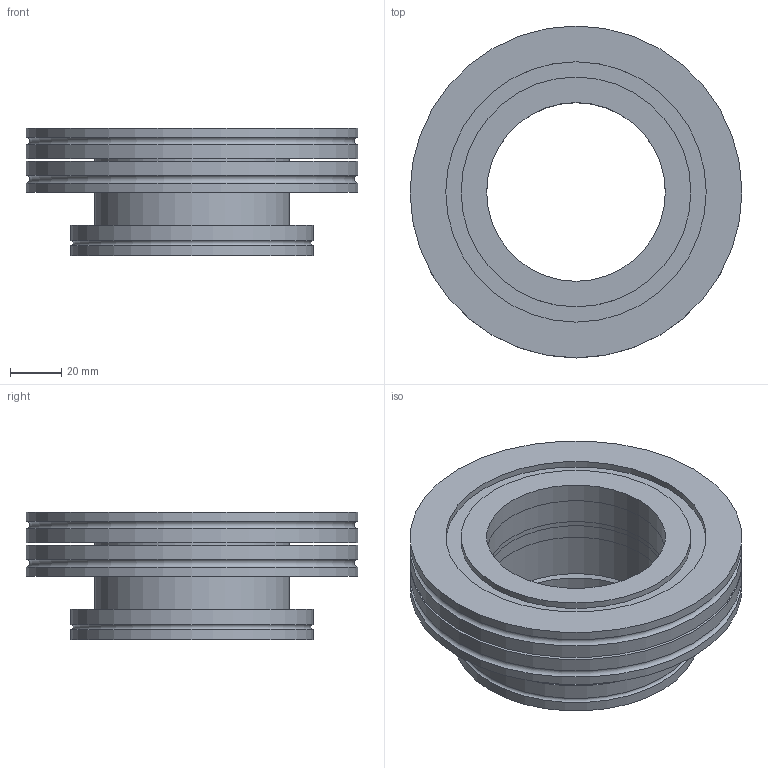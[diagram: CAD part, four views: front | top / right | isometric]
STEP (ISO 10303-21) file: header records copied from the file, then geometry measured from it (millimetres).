
FILE_DESCRIPTION( ( 'Unknown' ), '1' );
FILE_NAME( 'X:/Daten ( aktueller Bestand )/Projekte und Zeichnungen/Solid Edge/9 ISO-K Verzweigungen/ISO-K-Reduzierstücke/6161.stp', 'Unknown', ( 'Unknown' ), ( 'Unknown' ), 'XStep 1.0', 'Unknown', ' ' );
FILE_SCHEMA( ( 'automotive_design' ) );
Length unit declared in the file: millimetre
Products named in the file (4): Assem1; 6161-1; 6161-2; 6511
Bounding box: 130 x 130 x 50 mm (x, y, z)
Volume: 307131 mm3; surface area: 122979 mm2
Topology: 6 solids, 6 shells, 66 faces, 104 edges, 66 vertices
Faces by surface type: cylinder 32, plane 28, torus 4, cone 2
Full cylindrical faces by diameter (mm): 70 x6, 76 x2, 76.5 x4, 80 x2, 90 x4, 95 x4, 102 x2, 108 x2, 125 x2, 130 x4
Entity records: 777 total; most frequent: DIRECTION 140, CARTESIAN_POINT 103, AXIS2_PLACEMENT_3D 70, EDGE_LOOP 66, ORIENTED_EDGE 66, FACE_OUTER_BOUND 51, ADVANCED_FACE 33, EDGE_CURVE 33
